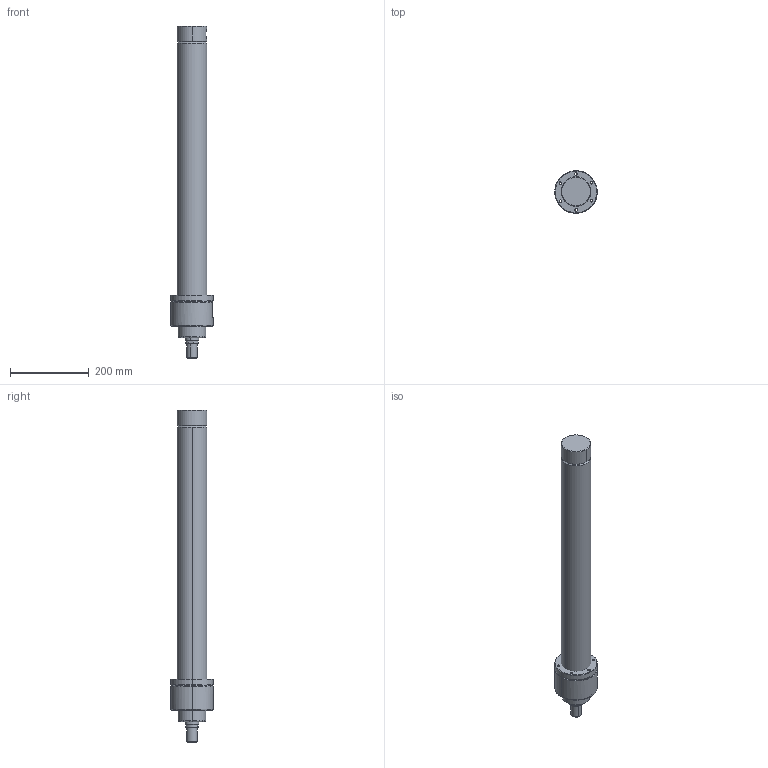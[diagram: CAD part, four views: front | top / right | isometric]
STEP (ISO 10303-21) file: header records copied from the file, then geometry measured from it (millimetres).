
FILE_DESCRIPTION (( 'STEP AP214' ), '1' );
FILE_NAME ('63-35-600-WEB.STEP', '2021-01-13T12:24:44', ( 'cagdas' ), ( '' ), 'SwSTEP 2.0', 'SolidWorks 2021', '' );
FILE_SCHEMA (( 'AUTOMOTIVE_DESIGN' ));
Length unit declared in the file: millimetre
Products named in the file (6): 35_K_MIL_WEB; 63_36_CETOP_烰_KAPAK; 63_Gerdirme _Flansý; TYAK_63_75; 63-35-600-WEB; 63x75_BORU_WEB
Assembly tree (5 placements, depth 2):
  63-35-600-WEB
    63x75_BORU_WEB
    TYAK_63_75
    63_36_CETOP_烰_KAPAK
    63_Gerdirme _Flansý
    35_K_MIL_WEB
Bounding box: 107.99 x 107.99 x 844 mm (x, y, z)
Volume: 1864044.6 mm3; surface area: 429243.7 mm2
Topology: 5 solids, 5 shells, 377 faces, 925 edges, 590 vertices
Faces by surface type: plane 120, cylinder 102, bspline 87, cone 64, torus 4
Entity records: 17240 total; most frequent: CARTESIAN_POINT 8406, ORIENTED_EDGE 1850, DIRECTION 1528, EDGE_CURVE 925, VERTEX_POINT 590, AXIS2_PLACEMENT_3D 575, EDGE_LOOP 443, VECTOR 378
